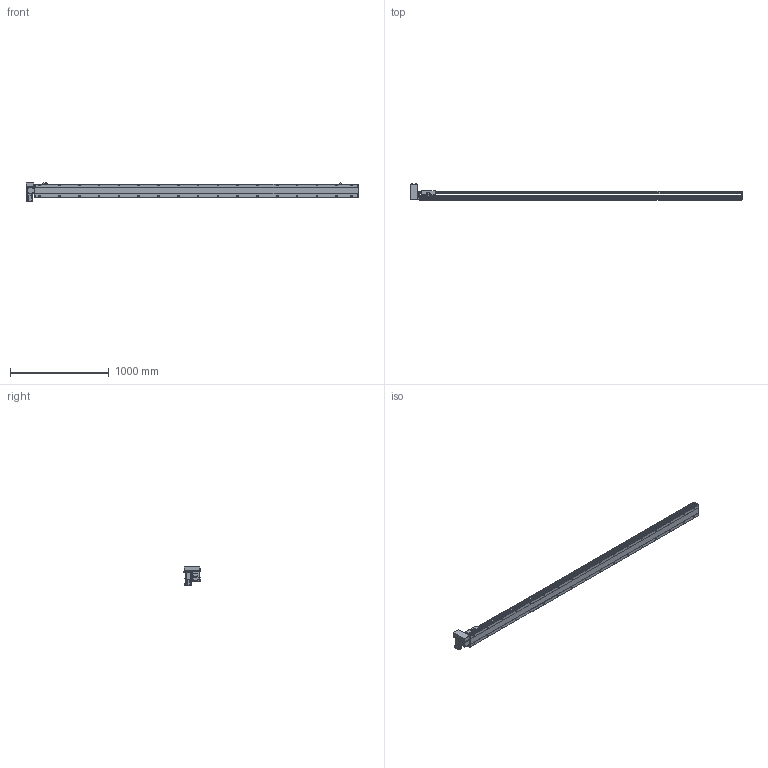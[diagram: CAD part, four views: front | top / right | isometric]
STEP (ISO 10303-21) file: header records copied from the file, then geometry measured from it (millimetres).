
FILE_DESCRIPTION(/* description */ ('STEP AP214'),/* implementation_level */ '2;1');
FILE_NAME(/* name */ 'PBS140S-P40-S3000-RU-T40-C1-N(0)',/* time_stamp */ '2022-06-09T02:57:45+02:00',/* author */ ('License CC BY-ND 4.0'),/* organization */ ('CADENAS'),/* preprocessor_version */ 'ST-DEVELOPER v18.102',/* originating_system */ 'PARTsolutions',/* authorisation */ ' ');
FILE_SCHEMA (('AUTOMOTIVE_DESIGN {1 0 10303 214 3 1 1}'));
Length unit declared in the file: millimetre
Products named in the file (7): PBS140S-P40-S3000-RU-T40-C1-N(0); PBS140S_sensor; PBS140S_plant; PBS140S_sliser; T40-p1; PBS140ST-RU_motors; PBS140S-S3000()_body
Assembly tree (8 placements, depth 2):
  PBS140S-P40-S3000-RU-T40-C1-N(0)
    PBS140S_sensor  x3
    PBS140S_plant
    PBS140S_sliser
    T40-p1
    PBS140ST-RU_motors
    PBS140S-S3000()_body
Bounding box: 3354 x 162.5 x 189.7 mm (x, y, z)
Volume: 16147223.1 mm3; surface area: 2709289.5 mm2
Topology: 8 solids, 8 shells, 1243 faces, 3271 edges, 2139 vertices
Faces by surface type: plane 756, cylinder 417, cone 60, sphere 8, torus 2
Full cylindrical faces by diameter (mm): 3.242 x4, 4 x2, 4.134 x4, 4.4 x8, 4.5 x2, 4.8 x4, 4.917 x42, 5.5 x7, 6 x2, 7 x36, 7.5 x8, 8 x12, 8.5 x4, 10.5 x34, 14 x1, 30 x2, 50 x2
Entity records: 35618 total; most frequent: CARTESIAN_POINT 6824, DIRECTION 5978, ORIENTED_EDGE 5602, EDGE_CURVE 2801, AXIS2_PLACEMENT_3D 2129, VERTEX_POINT 1969, LINE 1720, VECTOR 1720
